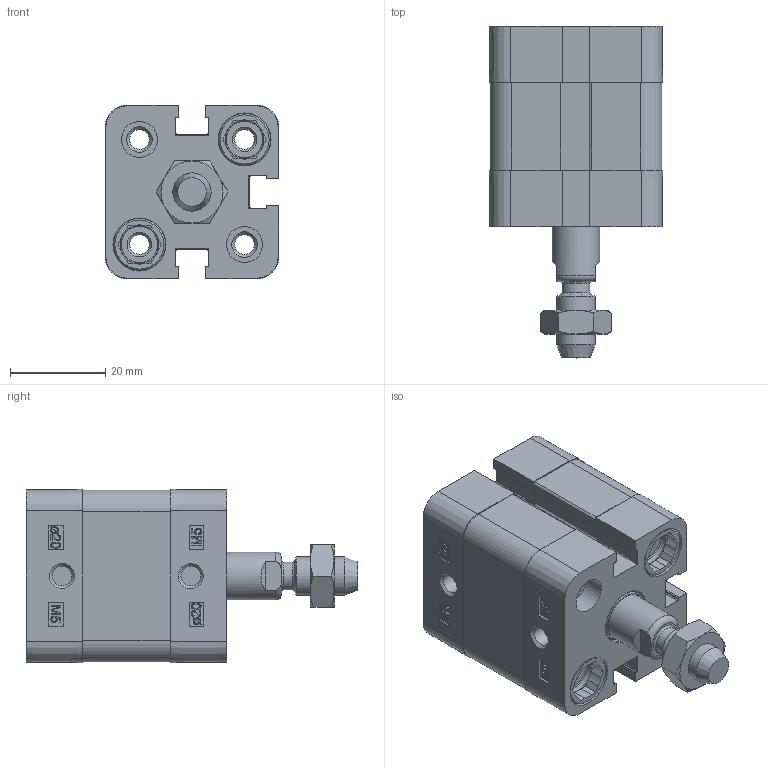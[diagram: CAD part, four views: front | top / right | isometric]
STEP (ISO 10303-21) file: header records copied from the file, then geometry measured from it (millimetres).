
FILE_DESCRIPTION(/* description */ ('Unknown'),/* implementation_level */ '2;1');
FILE_NAME(/* name */ 'ZEFV 20_5',/* time_stamp */ '2025-01-24T10:12:41+01:00',/* author */ ('Unknown'),/* organization */ ('HAFNER Pneumatika Kft'),/* preprocessor_version */ 'ST-DEVELOPER v16.7',/* originating_system */ 'Solid Edge',/* authorisation */ 'Unknown');
FILE_SCHEMA (('AUTOMOTIVE_DESIGN {1 0 10303 214 3 1 1}'));
Length unit declared in the file: millimetre
Products named in the file (6): ZEFV 20_5; Mutter; Profilrohr; Kolbenstange; Kit_2; Kit_1
Assembly tree (5 placements, depth 2):
  ZEFV 20_5
    Mutter
    Profilrohr
    Kolbenstange
    Kit_2
    Kit_1
Bounding box: 36.3 x 69.5 x 36.3 mm (x, y, z)
Volume: 43578.4 mm3; surface area: 24031.1 mm2
Topology: 5 solids, 9 shells, 599 faces, 1597 edges, 1053 vertices
Faces by surface type: plane 291, cylinder 150, bspline 86, cone 58, torus 14
Full cylindrical faces by diameter (mm): 4.134 x10, 5.8 x1, 6.647 x1, 7.5 x4, 7.55 x4, 8 x9, 9 x1, 10 x1, 10.48 x1, 10.9 x4, 11.1 x4, 11.4 x1, 12 x1, 13.84 x1, 14 x1, 20 x2
Entity records: 22025 total; most frequent: CARTESIAN_POINT 4325, ORIENTED_EDGE 2918, DIRECTION 2662, EDGE_CURVE 1459, VERTEX_POINT 1009, AXIS2_PLACEMENT_3D 908, LINE 846, VECTOR 846
